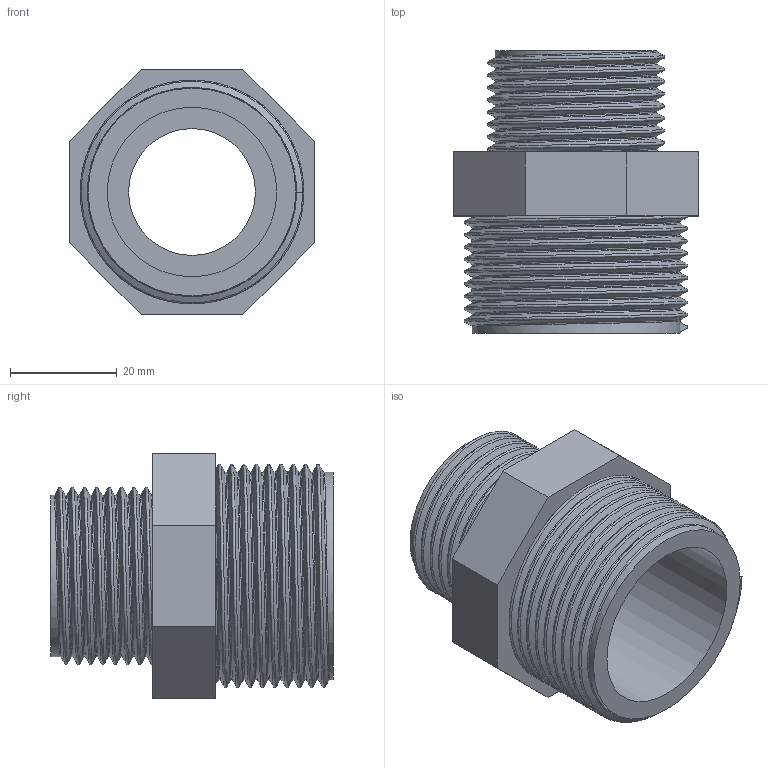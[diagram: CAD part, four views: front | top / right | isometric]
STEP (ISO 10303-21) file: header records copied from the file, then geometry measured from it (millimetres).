
FILE_DESCRIPTION(/* description */ ('PVC nipplo ridotto filettato BSP'),/* implementation_level */ '2;1');
FILE_NAME(/* name */ 'C:\Users\POLYPIPE\Desktop\DATASET INVENTOR\LIBRERIA EFFAST\RACCORDI 3DxWEB\RER\3D_RERNRE\3D_RERNRE040D.stp',/* time_stamp */ '2018-01-19T16:46:33+01:00',/* author */ ('POLYPIPE'),/* organization */ ('Polypipe Italia s.r.l.'),/* preprocessor_version */ 'ST-DEVELOPER v16.1',/* originating_system */ 'Autodesk Inventor 2016',/* authorisation */ '');
FILE_SCHEMA (('CONFIG_CONTROL_DESIGN'));
Length unit declared in the file: millimetre
Products named in the file (1): 3D_RERNRE
Bounding box: 46 x 53 x 46 mm (x, y, z)
Volume: 30836.8 mm3; surface area: 16779.3 mm2
Topology: 1 solids, 1 shells, 29 faces, 66 edges, 42 vertices
Faces by surface type: plane 15, bspline 10, cylinder 4
Full cylindrical faces by diameter (mm): 23.8 x1, 30.291 x1, 31.8 x1, 38.952 x1
Entity records: 7632 total; most frequent: CARTESIAN_POINT 7020, ORIENTED_EDGE 128, DIRECTION 94, EDGE_CURVE 64, VERTEX_POINT 42, EDGE_LOOP 36, AXIS2_PLACEMENT_3D 32, LINE 30
